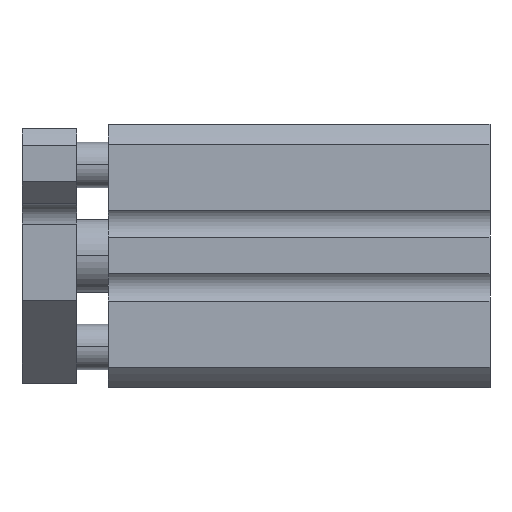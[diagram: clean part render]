
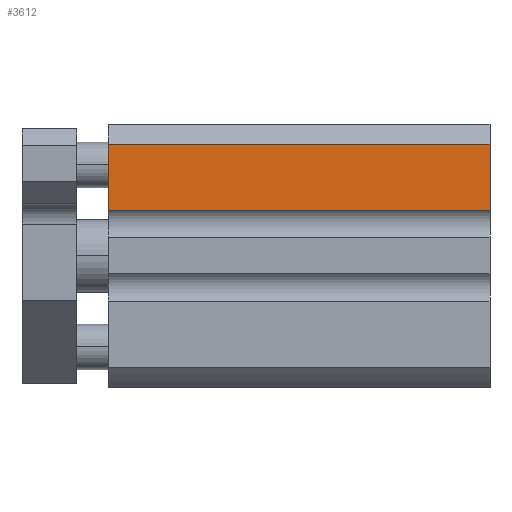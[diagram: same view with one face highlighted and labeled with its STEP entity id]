
A CAD part, top view. The second image highlights one B-rep face of the part: STEP entity #3612.
In plain terms, the highlighted planar face has unit normal (0, 0, 1).
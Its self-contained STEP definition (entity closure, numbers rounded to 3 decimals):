
#68 = ORIENTED_EDGE ( 'NONE', *, *, #167, .F. ) ;
#131 = CARTESIAN_POINT ( 'NONE',  ( 42., 5., 14.5 ) ) ;
#167 = EDGE_CURVE ( 'NONE', #3021, #2132, #1720, .T. ) ;
#254 = VECTOR ( 'NONE', #3704, 1000. ) ;
#600 = EDGE_CURVE ( 'NONE', #3021, #2058, #800, .T. ) ;
#623 = DIRECTION ( 'NONE',  ( 0., -1., 0. ) ) ;
#800 = LINE ( 'NONE', #4127, #3674 ) ;
#952 = FACE_OUTER_BOUND ( 'NONE', #2030, .T. ) ;
#1072 = ORIENTED_EDGE ( 'NONE', *, *, #600, .T. ) ;
#1142 = EDGE_CURVE ( 'NONE', #2058, #3860, #1205, .T. ) ;
#1205 = LINE ( 'NONE', #3509, #2634 ) ;
#1226 = DIRECTION ( 'NONE',  ( -1., 0., 0. ) ) ;
#1720 = LINE ( 'NONE', #2052, #254 ) ;
#1950 = CARTESIAN_POINT ( 'NONE',  ( 42., 5., 14.5 ) ) ;
#2030 = EDGE_LOOP ( 'NONE', ( #3644, #3139, #68, #1072 ) ) ;
#2052 = CARTESIAN_POINT ( 'NONE',  ( 42., 12.278, 14.5 ) ) ;
#2058 = VERTEX_POINT ( 'NONE', #2411 ) ;
#2132 = VERTEX_POINT ( 'NONE', #131 ) ;
#2284 = CARTESIAN_POINT ( 'NONE',  ( 42., 12.278, 14.5 ) ) ;
#2411 = CARTESIAN_POINT ( 'NONE',  ( 0., 12.278, 14.5 ) ) ;
#2619 = VECTOR ( 'NONE', #1226, 1000. ) ;
#2634 = VECTOR ( 'NONE', #4206, 1000. ) ;
#2871 = CARTESIAN_POINT ( 'NONE',  ( 42., 12.278, 14.5 ) ) ;
#2961 = PLANE ( 'NONE',  #3213 ) ;
#3021 = VERTEX_POINT ( 'NONE', #2871 ) ;
#3139 = ORIENTED_EDGE ( 'NONE', *, *, #4087, .F. ) ;
#3213 = AXIS2_PLACEMENT_3D ( 'NONE', #2284, #3937, #623 ) ;
#3509 = CARTESIAN_POINT ( 'NONE',  ( 0., 12.278, 14.5 ) ) ;
#3612 = ADVANCED_FACE ( 'NONE', ( #952 ), #2961, .F. ) ;
#3644 = ORIENTED_EDGE ( 'NONE', *, *, #1142, .T. ) ;
#3674 = VECTOR ( 'NONE', #4066, 1000. ) ;
#3704 = DIRECTION ( 'NONE',  ( 0., -1., 0. ) ) ;
#3860 = VERTEX_POINT ( 'NONE', #4143 ) ;
#3937 = DIRECTION ( 'NONE',  ( 0., 0., -1. ) ) ;
#4066 = DIRECTION ( 'NONE',  ( -1., 0., 0. ) ) ;
#4087 = EDGE_CURVE ( 'NONE', #2132, #3860, #4208, .T. ) ;
#4127 = CARTESIAN_POINT ( 'NONE',  ( 42., 12.278, 14.5 ) ) ;
#4143 = CARTESIAN_POINT ( 'NONE',  ( 0., 5., 14.5 ) ) ;
#4206 = DIRECTION ( 'NONE',  ( 0., -1., 0. ) ) ;
#4208 = LINE ( 'NONE', #1950, #2619 ) ;
